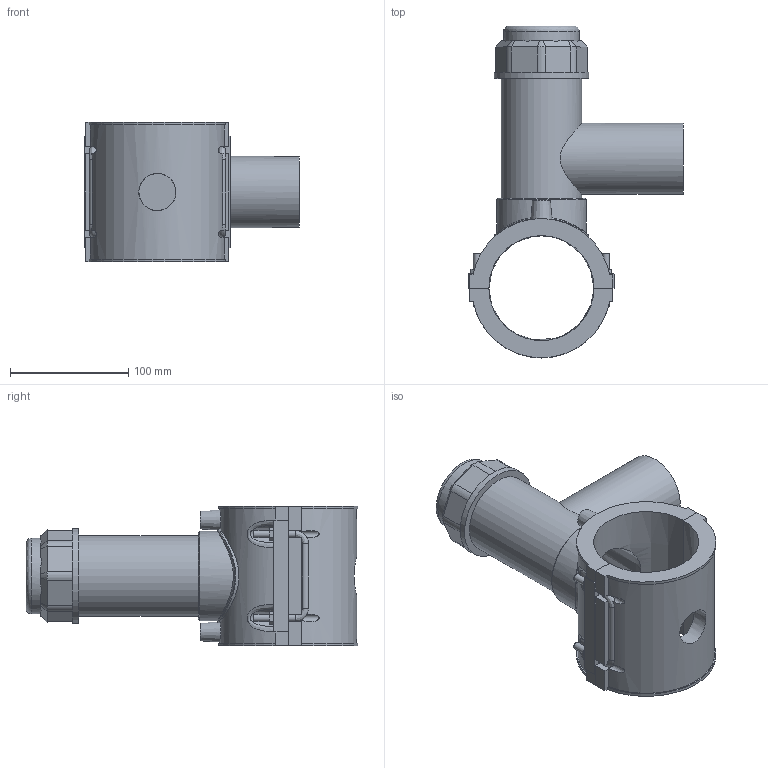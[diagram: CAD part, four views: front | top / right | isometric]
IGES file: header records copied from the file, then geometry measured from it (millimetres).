
Global section: file name: 5963BB03030020.ipt; native system: Autodesk Inventor 2019; preprocessor: unknown; author: KIM; date: 20210830.101353; units: millimetre
Bounding box: 181.34 x 280.2 x 118.11 mm (x, y, z)
Volume: 912900.3 mm3; surface area: 193222.6 mm2
Topology: 1 solids, 1 shells, 210 faces, 552 edges, 361 vertices
Faces by surface type: plane 128, cylinder 37, revolution 24, cone 15, bspline 6
Full cylindrical faces by diameter (mm): 4 x2, 6 x8, 60.1 x1, 63.864 x1, 67.856 x1, 75.838 x1, 79.83 x1
